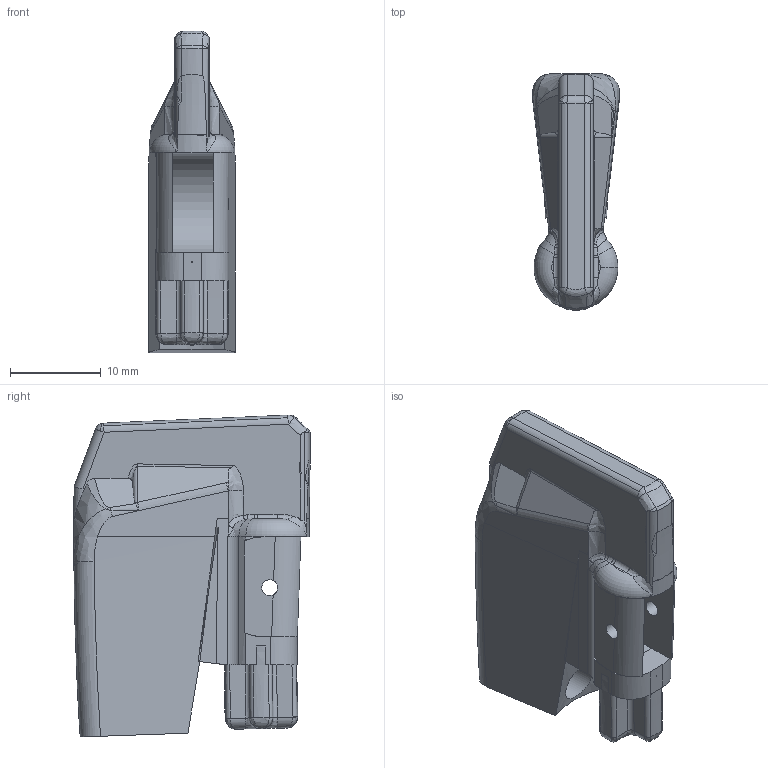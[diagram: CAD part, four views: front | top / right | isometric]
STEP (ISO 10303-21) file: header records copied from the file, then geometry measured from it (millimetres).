
FILE_DESCRIPTION(('HOOPS Exchange Step'),'2;1');
FILE_NAME('/private/var/mobile/Containers/Data/Application/CF5FE49D-83C9-4FF2-81F6-0AAB70978F0F/tmp/export/temp_export','2026-09-05T10:47:22-05:00',('mobile'),('Shapr3D Limited'),'HOOPS Exchange 2026.3','Shapr3D','Authorized');
FILE_SCHEMA( ('AP242_MANAGED_MODEL_BASED_3D_ENGINEERING_MIM_LF {1 0 10303 442 1 1 4}') );
Length unit declared in the file: millimetre
Products named in the file (2): white rice follower FINAL.STEP; root
Assembly tree (1 placements, depth 2):
  root
    white rice follower FINAL.STEP
Bounding box: 9.57 x 26.04 x 35.43 mm (x, y, z)
Volume: 4763.1 mm3; surface area: 2819.1 mm2
Topology: 1 solids, 1 shells, 226 faces, 604 edges, 364 vertices
Faces by surface type: bspline 85, plane 56, cylinder 46, torus 31, cone 4, sphere 4
Full cylindrical faces by diameter (mm): 1.75 x2, 4 x1
Entity records: 14621 total; most frequent: CARTESIAN_POINT 9889, ORIENTED_EDGE 1178, DIRECTION 669, EDGE_CURVE 589, VERTEX_POINT 364, B_SPLINE_CURVE_WITH_KNOTS 306, AXIS2_PLACEMENT_3D 253, EDGE_LOOP 231
